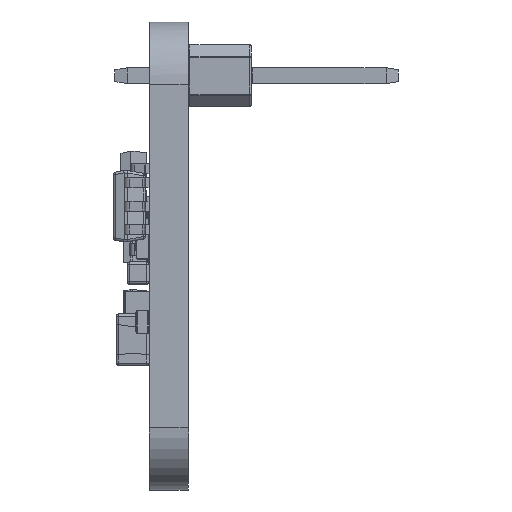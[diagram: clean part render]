
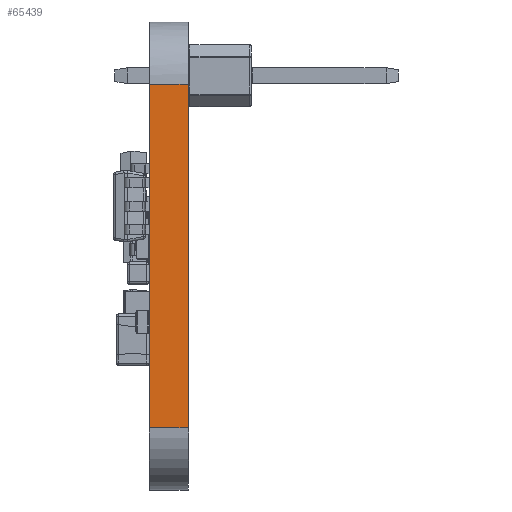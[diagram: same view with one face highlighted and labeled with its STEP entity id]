
A CAD part, left-side view. The second image highlights one B-rep face of the part: STEP entity #65439.
In plain terms, the highlighted planar face has unit normal (-1, 0, 0).
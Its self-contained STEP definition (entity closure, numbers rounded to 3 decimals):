
#7483=FACE_OUTER_BOUND('',#11013,.T.);
#11013=EDGE_LOOP('',(#57936,#57937,#57938,#57939));
#12352=LINE('',#90506,#18456);
#12776=LINE('',#93453,#18880);
#17119=LINE('',#121658,#23223);
#17120=LINE('',#121660,#23224);
#18456=VECTOR('',#73662,10.);
#18880=VECTOR('',#74340,10.);
#23223=VECTOR('',#81805,10.);
#23224=VECTOR('',#81808,10.);
#25525=VERTEX_POINT('',#90503);
#25526=VERTEX_POINT('',#90505);
#26055=VERTEX_POINT('',#93450);
#26056=VERTEX_POINT('',#93452);
#32442=EDGE_CURVE('',#25525,#25526,#12352,.T.);
#33121=EDGE_CURVE('',#26056,#26055,#12776,.T.);
#39442=EDGE_CURVE('',#26055,#25526,#17119,.T.);
#39443=EDGE_CURVE('',#26056,#25525,#17120,.T.);
#57936=ORIENTED_EDGE('',*,*,#33121,.T.);
#57937=ORIENTED_EDGE('',*,*,#39442,.T.);
#57938=ORIENTED_EDGE('',*,*,#32442,.F.);
#57939=ORIENTED_EDGE('',*,*,#39443,.F.);
#59707=PLANE('',#68927);
#65439=ADVANCED_FACE('',(#7483),#59707,.T.);
#68927=AXIS2_PLACEMENT_3D('',#121659,#81806,#81807);
#73662=DIRECTION('',(0.,0.,-1.));
#74340=DIRECTION('',(0.,0.,-1.));
#81805=DIRECTION('',(0.,-1.,0.));
#81806=DIRECTION('center_axis',(-1.,0.,0.));
#81807=DIRECTION('ref_axis',(0.,0.,-1.));
#81808=DIRECTION('',(0.,-1.,0.));
#90503=CARTESIAN_POINT('',(-1.869,-1.57,-0.356));
#90505=CARTESIAN_POINT('',(-1.869,-1.57,-14.326));
#90506=CARTESIAN_POINT('',(-1.869,-1.57,2.184));
#93450=CARTESIAN_POINT('',(-1.869,0.,-14.326));
#93452=CARTESIAN_POINT('',(-1.869,0.,-0.356));
#93453=CARTESIAN_POINT('',(-1.869,0.,2.184));
#121658=CARTESIAN_POINT('',(-1.869,0.,-14.326));
#121659=CARTESIAN_POINT('Origin',(-1.869,0.,-0.356));
#121660=CARTESIAN_POINT('',(-1.869,0.,-0.356));
